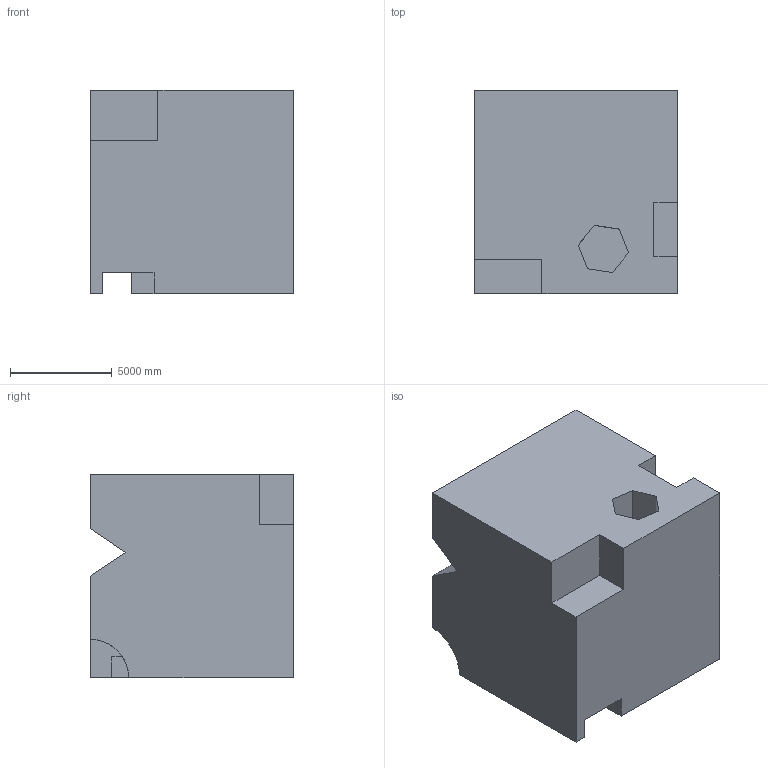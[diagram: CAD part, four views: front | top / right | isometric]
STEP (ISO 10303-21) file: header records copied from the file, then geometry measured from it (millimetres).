
FILE_DESCRIPTION (( 'STEP AP203' ), '1' );
FILE_NAME ('576.STEP', '2022-07-29T11:54:13', ( 'user' ), ( '' ), 'SwSTEP 2.0', 'SolidWorks 2021', '' );
FILE_SCHEMA (( 'CONFIG_CONTROL_DESIGN' ));
Length unit declared in the file: centimetre
Products named in the file (1): 576
Bounding box: 10000 x 10000 x 10000 mm (x, y, z)
Volume: 908285963188.8 mm3; surface area: 674000154.7 mm2
Topology: 1 solids, 1 shells, 30 faces, 81 edges, 54 vertices
Faces by surface type: plane 29, cylinder 1
Entity records: 1005 total; most frequent: CARTESIAN_POINT 166, ORIENTED_EDGE 162, DIRECTION 146, EDGE_CURVE 81, VECTOR 78, LINE 78, VERTEX_POINT 54, AXIS2_PLACEMENT_3D 34
